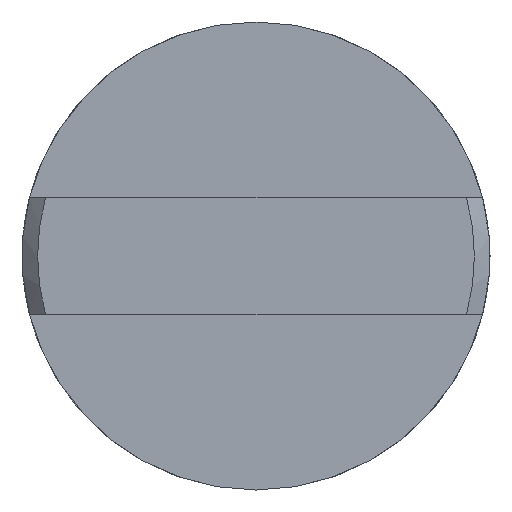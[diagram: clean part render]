
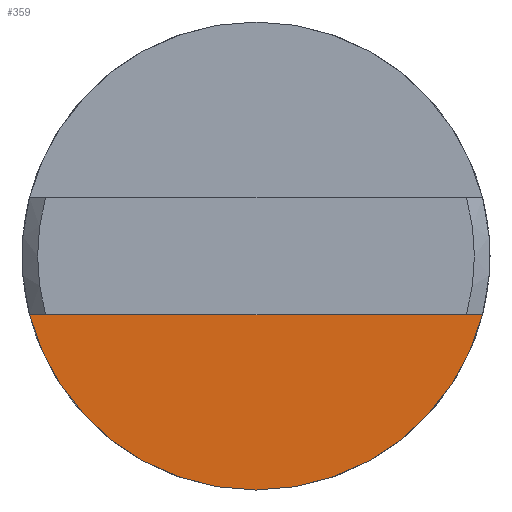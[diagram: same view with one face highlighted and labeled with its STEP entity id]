
A CAD part, left-side view. The second image highlights one B-rep face of the part: STEP entity #359.
In plain terms, the highlighted planar face has unit normal (-1, 0, 0).
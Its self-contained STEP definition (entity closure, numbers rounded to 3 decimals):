
#9 = CARTESIAN_POINT ( 'NONE',  ( -3., 0., 0. ) ) ;
#16 = DIRECTION ( 'NONE',  ( -1., 0., 0. ) ) ;
#36 = DIRECTION ( 'NONE',  ( 0., -1., 0. ) ) ;
#76 = DIRECTION ( 'NONE',  ( -1., 0., 0. ) ) ;
#119 = DIRECTION ( 'NONE',  ( -1., 0., 0. ) ) ;
#131 = CARTESIAN_POINT ( 'NONE',  ( -3., 0., -3. ) ) ;
#148 = AXIS2_PLACEMENT_3D ( 'NONE', #828, #76, #173 ) ;
#173 = DIRECTION ( 'NONE',  ( 0., 0., 1. ) ) ;
#174 = AXIS2_PLACEMENT_3D ( 'NONE', #794, #119, #719 ) ;
#189 = EDGE_CURVE ( 'NONE', #222, #724, #857, .T. ) ;
#222 = VERTEX_POINT ( 'NONE', #846 ) ;
#236 = CARTESIAN_POINT ( 'NONE',  ( -3., -2.905, -0.75 ) ) ;
#247 = CIRCLE ( 'NONE', #174, 3. ) ;
#255 = VECTOR ( 'NONE', #36, 1000. ) ;
#294 = EDGE_CURVE ( 'NONE', #222, #825, #508, .T. ) ;
#340 = ORIENTED_EDGE ( 'NONE', *, *, #294, .T. ) ;
#350 = FACE_OUTER_BOUND ( 'NONE', #817, .T. ) ;
#359 = ADVANCED_FACE ( 'NONE', ( #350 ), #618, .T. ) ;
#508 = CIRCLE ( 'NONE', #148, 3. ) ;
#542 = DIRECTION ( 'NONE',  ( 0., 0., 1. ) ) ;
#618 = PLANE ( 'NONE',  #620 ) ;
#620 = AXIS2_PLACEMENT_3D ( 'NONE', #9, #16, #542 ) ;
#652 = CARTESIAN_POINT ( 'NONE',  ( -3., 3.5, -0.75 ) ) ;
#719 = DIRECTION ( 'NONE',  ( 0., 0., 1. ) ) ;
#724 = VERTEX_POINT ( 'NONE', #236 ) ;
#794 = CARTESIAN_POINT ( 'NONE',  ( -3., 0., 0. ) ) ;
#807 = EDGE_CURVE ( 'NONE', #825, #724, #247, .T. ) ;
#815 = ORIENTED_EDGE ( 'NONE', *, *, #807, .T. ) ;
#817 = EDGE_LOOP ( 'NONE', ( #340, #815, #878 ) ) ;
#825 = VERTEX_POINT ( 'NONE', #131 ) ;
#828 = CARTESIAN_POINT ( 'NONE',  ( -3., 0., 0. ) ) ;
#846 = CARTESIAN_POINT ( 'NONE',  ( -3., 2.905, -0.75 ) ) ;
#857 = LINE ( 'NONE', #652, #255 ) ;
#878 = ORIENTED_EDGE ( 'NONE', *, *, #189, .F. ) ;
